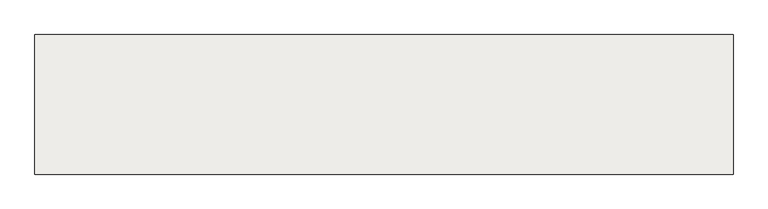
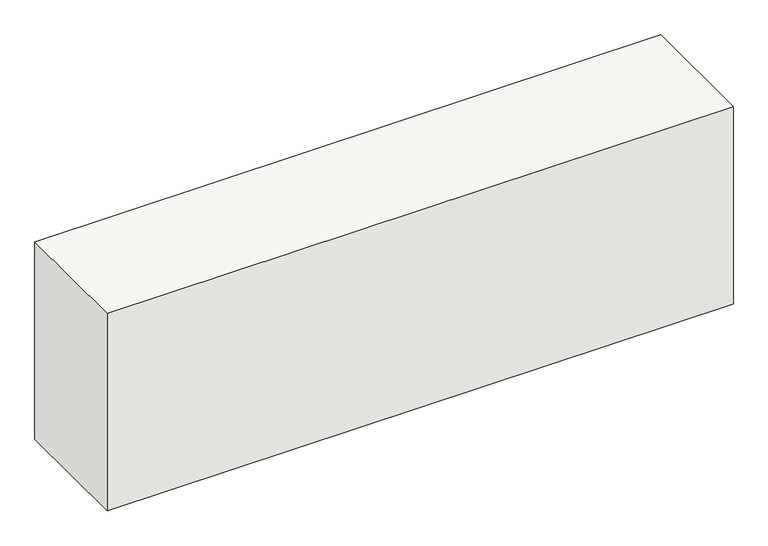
"""IFC4 building model written with IfcOpenShell, lengths in millimetres: slab geometry, Wall Foundation:16_SFO_prefab beton_C35-45_300x500:317420 : Wall Foundation:16_SFO_prefab beton_C35-45_300x500:317420."""

from ifc_helpers import new_model, si_unit, frame, origin, place, context, project, spatial, polyline, outline, extrude, source, transform, mapped, element, save


def slab_bb70ff76(model_context):
    return source(origin(), model_context, "Body", "SweptSolid", [
        extrude(outline(polyline([(28189.8687149, -6398.9380074), (26689.8687149, -6398.9380074), (26689.8687149, -6098.9380074), (28189.8687149, -6098.9380074), (28189.8687149, -6398.9380074)])), frame((0.0, 0.0, -500.0), z_axis=(0.0, 0.0, 1.0), x_axis=(1.0, 0.0, 0.0)), (0.0, 0.0, 1.0), 500.0),
    ])


if __name__ == "__main__":
    model = new_model("IFC4")
    model_context = context("Model", 3, world=origin())
    ifc_project = project(units=[si_unit("LENGTHUNIT", "METRE", prefix="MILLI")], contexts=[model_context])
    site = spatial("IfcSite", under=ifc_project)
    building = spatial("IfcBuilding", under=site)
    placement = place(None, origin())
    slab_shape = slab_bb70ff76(model_context)
    element("IfcSlab", 1, ObjectType="Wall Foundation:16_SFO_prefab beton_C35-45_300x500:317420 : Wall Foundation:16_SFO_prefab beton_C35-45_300x500:317420", at=placement, inside=building, context=model_context, shape_type="MappedRepresentation", body=[
        mapped(slab_shape, transform((0.0, 0.0, 0.0), x_axis=(1.0, 0.0, 0.0), y_axis=(0.0, 1.0, 0.0), z_axis=(0.0, 0.0, 1.0))),
    ])
    save(model, "model.ifc")
